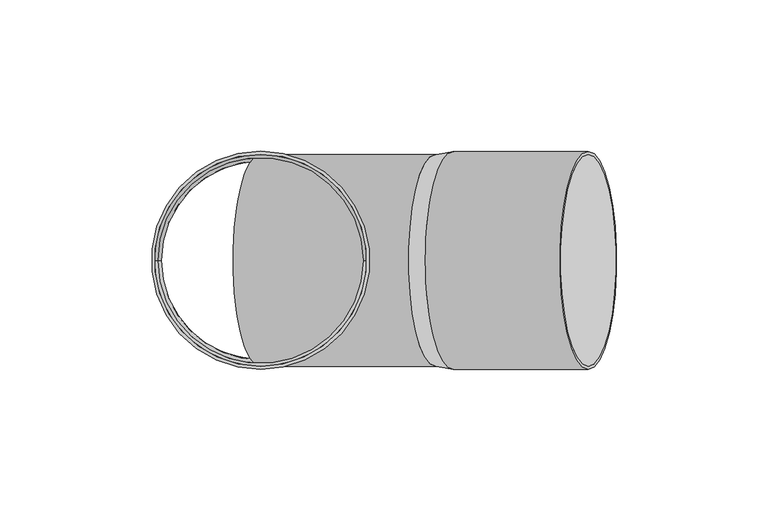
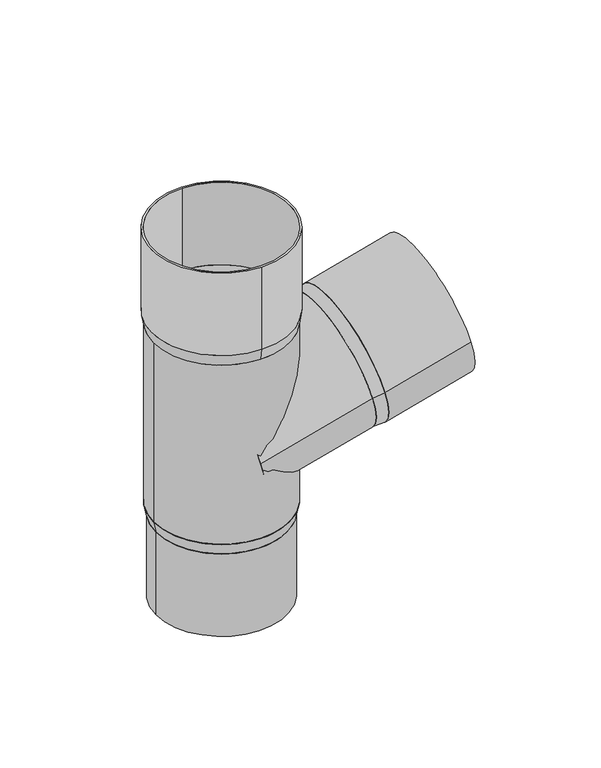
"""IFC4 building model written with IfcOpenShell, lengths in millimetres: proxy geometry, GROVIK_Downpipe_Branch : N70_75°."""

from ifc_helpers import new_model, si_unit, point, frame, origin, origin_2d, place, context, project, spatial, polyline, circle_curve, trimmed, segment, composite_curve, outline, extrude, source, transform, mapped, element, save
from ifc_brep_helpers import plane_surface, revolved_surface, advanced_brep


def generic_models_75526958(model_context):
    return source(origin(), model_context, "Body", "SolidModel", [
        extrude(outline(composite_curve([segment(trimmed(circle_curve(origin_2d(), 36.0), [point((0.0, 36.0))], [point((0.0, -36.0))], False, "CARTESIAN"), True, "CONTINUOUS"), segment(trimmed(circle_curve(origin_2d(), 36.0), [point((0.0, -36.0))], [point((0.0, 36.0))], False, "CARTESIAN"), True, "CONTINUOUS")], self_intersect=False), holes=[composite_curve([segment(trimmed(circle_curve(origin_2d(), 35.0), [point((0.0, 35.0))], [point((0.0, -35.0))], True, "CARTESIAN"), True, "CONTINUOUS"), segment(trimmed(circle_curve(origin_2d(), 35.0), [point((0.0, -35.0))], [point((0.0, 35.0))], True, "CARTESIAN"), True, "CONTINUOUS")], self_intersect=False)]), frame((63.7511045, 0.0, 9.082057), z_axis=(0.965925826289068, 0.0, 0.25881904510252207), x_axis=(0.25881904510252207, 0.0, -0.965925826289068)), (0.0, 0.0, 1.0), 46.0),
        advanced_brep(
        [(57.9555496, -35.0, 7.5291427), (57.9555496, 35.0, 7.5291427), (57.9555496, 33.9, 7.5291427), (57.9555496, -33.9, 7.5291427), (63.7511045, -36.0, 9.082057), (63.7511045, 36.0, 9.082057), (63.7511045, -35.0, 9.082057), (63.7511045, 35.0, 9.082057)],
        [
            (0, 1, circle_curve(frame((57.9555496, 0.0, 7.5291427), z_axis=(-0.965925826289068, 0.0, -0.25881904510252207), x_axis=(0.0, -1.0, 0.0)), 35.0)),
            (1, 0, circle_curve(frame((57.9555496, 0.0, 7.5291427), z_axis=(-0.965925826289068, 0.0, -0.25881904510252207), x_axis=(0.0, 1.0, 0.0)), 35.0)),
            (2, 3, circle_curve(frame((57.9555496, 0.0, 7.5291427), z_axis=(0.965925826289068, 0.0, 0.25881904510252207), x_axis=(0.0, -1.0, 0.0)), 33.9)),
            (3, 2, circle_curve(frame((57.9555496, 0.0, 7.5291427), z_axis=(0.965925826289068, 0.0, 0.25881904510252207), x_axis=(0.0, 1.0, 0.0)), 33.9)),
            (4, 5, circle_curve(frame((63.7511045, 0.0, 9.082057), z_axis=(0.965925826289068, 0.0, 0.25881904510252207), x_axis=(0.0, 1.0, 0.0)), 36.0)),
            (5, 4, circle_curve(frame((63.7511045, 0.0, 9.082057), z_axis=(0.965925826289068, 0.0, 0.25881904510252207), x_axis=(0.0, -1.0, 0.0)), 36.0)),
            (6, 7, circle_curve(frame((63.7511045, 0.0, 9.082057), z_axis=(-0.965925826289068, 0.0, -0.25881904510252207), x_axis=(0.0, -1.0, 0.0)), 35.0)),
            (7, 6, circle_curve(frame((63.7511045, 0.0, 9.082057), z_axis=(-0.965925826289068, 0.0, -0.25881904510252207), x_axis=(0.0, 1.0, 0.0)), 35.0)),
            (0, 4),
            (5, 1),
            (6, 3),
            (2, 7),
        ],
        [
            plane_surface(frame((57.9555496, 0.0, 7.5291427), z_axis=(-0.965925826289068, 0.0, -0.25881904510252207), x_axis=(-0.25881904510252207, 0.0, 0.965925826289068))),
            plane_surface(frame((63.7511045, 0.0, 9.082057), z_axis=(0.965925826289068, 0.0, 0.25881904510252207), x_axis=(-0.25881904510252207, 0.0, 0.965925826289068))),
            revolved_surface(polyline([(57.955549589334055, -35.00000000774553, 7.529142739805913), (63.7511045, -36.0, 9.082056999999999)]), (-144.8888739, 0.0, -46.8228568), (0.965925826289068, 0.0, 0.25881904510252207)),
            revolved_surface(polyline([(57.955549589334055, 35.00000000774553, 7.529142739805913), (63.7511045, 36.0, 9.082056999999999)]), (-144.8888739, 0.0, -46.8228568), (0.965925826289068, 0.0, 0.25881904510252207)),
            revolved_surface(polyline([(63.75110450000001, -35.0, 9.082056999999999), (57.95554958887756, -33.9000000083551, 7.529142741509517)]), (-120.6529168, 0.0, -40.3288516), (0.965925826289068, 0.0, 0.25881904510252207)),
        ],
        [
            (0, [[1, 2], [3, 4]]),
            (1, [[5, 6], [7, 8]]),
            (2, [[-1, 9, -6, 10]]),
            (3, [[-2, -10, -5, -9]]),
            (4, [[11, -3, 12, -7]]),
            (4, [[-11, -8, -12, -4]]),
        ],
    ),
        extrude(outline(composite_curve([segment(trimmed(circle_curve(origin_2d(), 35.0), [point((0.0, 35.0))], [point((0.0, -35.0))], False, "CARTESIAN"), True, "CONTINUOUS"), segment(trimmed(circle_curve(origin_2d(), 35.0), [point((0.0, -35.0))], [point((0.0, 35.0))], False, "CARTESIAN"), True, "CONTINUOUS")], self_intersect=False), holes=[composite_curve([segment(trimmed(circle_curve(origin_2d(), 33.9), [point((0.0, 33.9))], [point((0.0, -33.9))], True, "CARTESIAN"), True, "CONTINUOUS"), segment(trimmed(circle_curve(origin_2d(), 33.9), [point((0.0, -33.9))], [point((0.0, 33.9))], True, "CARTESIAN"), True, "CONTINUOUS")], self_intersect=False)]), frame((0.0, 0.0, -8.0), z_axis=(0.965925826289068, 0.0, 0.25881904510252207), x_axis=(0.25881904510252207, 0.0, -0.965925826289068)), (0.0, 0.0, 1.0), 60.0),
        extrude(outline(composite_curve([segment(trimmed(circle_curve(origin_2d(), 36.0), [point((0.0, 36.0))], [point((0.0, -36.0))], False, "CARTESIAN"), True, "CONTINUOUS"), segment(trimmed(circle_curve(origin_2d(), 36.0), [point((0.0, -36.0))], [point((0.0, 36.0))], False, "CARTESIAN"), True, "CONTINUOUS")], self_intersect=False), holes=[composite_curve([segment(trimmed(circle_curve(origin_2d(), 35.0), [point((0.0, 35.0))], [point((0.0, -35.0))], True, "CARTESIAN"), True, "CONTINUOUS"), segment(trimmed(circle_curve(origin_2d(), 35.0), [point((0.0, -35.0))], [point((0.0, 35.0))], True, "CARTESIAN"), True, "CONTINUOUS")], self_intersect=False)]), frame((0.0, 0.0, 55.0), z_axis=(0.0, 0.0, 1.0), x_axis=(1.0, 0.0, 0.0)), (0.0, 0.0, 1.0), 45.0),
        extrude(outline(composite_curve([segment(trimmed(circle_curve(origin_2d(), 33.75), [point((33.75, 0.0))], [point((-33.75, 0.0))], False, "CARTESIAN"), True, "CONTINUOUS"), segment(trimmed(circle_curve(origin_2d(), 33.75), [point((-33.75, 0.0))], [point((33.75, 0.0))], False, "CARTESIAN"), True, "CONTINUOUS")], self_intersect=False), holes=[composite_curve([segment(trimmed(circle_curve(origin_2d(), 32.75), [point((32.75, 0.0))], [point((-32.75, 0.0))], True, "CARTESIAN"), True, "CONTINUOUS"), segment(trimmed(circle_curve(origin_2d(), 32.75), [point((-32.75, 0.0))], [point((32.75, 0.0))], True, "CARTESIAN"), True, "CONTINUOUS")], self_intersect=False)]), frame((0.0, 0.0, -100.0), z_axis=(0.0, 0.0, 1.0), x_axis=(1.0, 0.0, 0.0)), (0.0, 0.0, 1.0), 45.0),
        advanced_brep(
        [(35.0, 0.0, -49.0), (-35.0, 0.0, -49.0), (-34.0, 0.0, -49.0), (34.0, 0.0, -49.0), (33.75, 0.0, -55.0), (-33.75, 0.0, -55.0), (32.75, 0.0, -55.0), (-32.75, 0.0, -55.0)],
        [
            (0, 1, circle_curve(frame((0.0, 0.0, -49.0), z_axis=(0.0, 0.0, 1.0), x_axis=(1.0, 0.0, 0.0)), 35.0)),
            (1, 0, circle_curve(frame((0.0, 0.0, -49.0), z_axis=(0.0, 0.0, 1.0), x_axis=(-1.0, 0.0, 0.0)), 35.0)),
            (2, 3, circle_curve(frame((0.0, 0.0, -49.0), z_axis=(0.0, 0.0, -1.0), x_axis=(1.0, 0.0, 0.0)), 34.0)),
            (3, 2, circle_curve(frame((0.0, 0.0, -49.0), z_axis=(0.0, 0.0, -1.0), x_axis=(-1.0, 0.0, 0.0)), 34.0)),
            (4, 5, circle_curve(frame((0.0, 0.0, -55.0), z_axis=(0.0, 0.0, -1.0), x_axis=(-1.0, 0.0, 0.0)), 33.75)),
            (5, 4, circle_curve(frame((0.0, 0.0, -55.0), z_axis=(0.0, 0.0, -1.0), x_axis=(1.0, 0.0, 0.0)), 33.75)),
            (6, 7, circle_curve(frame((0.0, 0.0, -55.0), z_axis=(0.0, 0.0, 1.0), x_axis=(1.0, 0.0, 0.0)), 32.75)),
            (7, 6, circle_curve(frame((0.0, 0.0, -55.0), z_axis=(0.0, 0.0, 1.0), x_axis=(-1.0, 0.0, 0.0)), 32.75)),
            (0, 4),
            (5, 1),
            (6, 3),
            (2, 7),
        ],
        [
            plane_surface(frame((0.0, 0.0, -49.0), z_axis=(0.0, 0.0, 1.0), x_axis=(0.0, 1.0, 0.0))),
            plane_surface(frame((0.0, 0.0, -55.0), z_axis=(0.0, 0.0, -1.0), x_axis=(0.0, 1.0, 0.0))),
            revolved_surface(polyline([(-33.75, 0.0, -55.0), (-35.0, 0.0, -49.0)]), (0.0, 0.0, -217.0), (0.0, 0.0, 1.0)),
            revolved_surface(polyline([(33.75, 0.0, -55.0), (35.0, 0.0, -49.0)]), (0.0, 0.0, -217.0), (0.0, 0.0, 1.0)),
            revolved_surface(polyline([(34.0, 0.0, -49.0), (32.75, 0.0, -55.0)]), (0.0, 0.0, -212.2), (0.0, 0.0, 1.0)),
        ],
        [
            (0, [[1, 2], [3, 4]]),
            (1, [[5, 6], [7, 8]]),
            (2, [[-1, 9, -6, 10]]),
            (3, [[-2, -10, -5, -9]]),
            (4, [[11, -3, 12, -7]]),
            (4, [[-11, -8, -12, -4]]),
        ],
    ),
        advanced_brep(
        [(0.0, 36.0, 55.0), (0.0, -36.0, 55.0), (-35.0, 0.0, 55.0), (35.0, 0.0, 55.0), (0.0, 35.0, 49.0), (0.0, -35.0, 49.0), (34.0, 0.0, 49.0), (-34.0, 0.0, 49.0)],
        [
            (0, 1, circle_curve(frame((0.0, 0.0, 55.0), z_axis=(0.0, 0.0, 1.0), x_axis=(0.0, 1.0, 0.0)), 36.0)),
            (1, 0, circle_curve(frame((0.0, 0.0, 55.0), z_axis=(0.0, 0.0, 1.0), x_axis=(0.0, -1.0, 0.0)), 36.0)),
            (2, 3, circle_curve(frame((0.0, 0.0, 55.0), z_axis=(0.0, 0.0, -1.0), x_axis=(-1.0, 0.0, 0.0)), 35.0)),
            (3, 2, circle_curve(frame((0.0, 0.0, 55.0), z_axis=(0.0, 0.0, -1.0), x_axis=(1.0, 0.0, 0.0)), 35.0)),
            (4, 5, circle_curve(frame((0.0, 0.0, 49.0), z_axis=(0.0, 0.0, -1.0), x_axis=(0.0, -1.0, 0.0)), 35.0)),
            (5, 4, circle_curve(frame((0.0, 0.0, 49.0), z_axis=(0.0, 0.0, -1.0), x_axis=(0.0, 1.0, 0.0)), 35.0)),
            (6, 7, circle_curve(frame((0.0, 0.0, 49.0), z_axis=(0.0, 0.0, 1.0), x_axis=(-1.0, 0.0, 0.0)), 34.0)),
            (7, 6, circle_curve(frame((0.0, 0.0, 49.0), z_axis=(0.0, 0.0, 1.0), x_axis=(1.0, 0.0, 0.0)), 34.0)),
            (0, 4),
            (5, 1),
            (2, 7),
            (6, 3),
        ],
        [
            plane_surface(frame((0.0, 0.0, 55.0), z_axis=(0.0, 0.0, 1.0), x_axis=(-1.0, 0.0, 0.0))),
            plane_surface(frame((0.0, 0.0, 49.0), z_axis=(0.0, 0.0, -1.0), x_axis=(-1.0, 0.0, 0.0))),
            revolved_surface(polyline([(0.0, -35.0, 49.0), (0.0, -36.0, 55.0)]), (0.0, 0.0, -161.0), (0.0, 0.0, 1.0)),
            revolved_surface(polyline([(0.0, 35.0, 49.0), (0.0, 36.0, 55.0)]), (0.0, 0.0, -161.0), (0.0, 0.0, 1.0)),
            revolved_surface(polyline([(-35.0, 0.0, 55.0), (-34.0, 0.0, 49.0)]), (0.0, 0.0, -155.0), (0.0, 0.0, 1.0)),
        ],
        [
            (0, [[1, 2], [3, 4]]),
            (1, [[5, 6], [7, 8]]),
            (2, [[-1, 9, -6, 10]]),
            (3, [[-2, -10, -5, -9]]),
            (4, [[11, -7, 12, -3]]),
            (4, [[-11, -4, -12, -8]]),
        ],
    ),
        extrude(outline(composite_curve([segment(trimmed(circle_curve(origin_2d(), 35.0), [point((-35.0, 0.0))], [point((35.0, 0.0))], False, "CARTESIAN"), True, "CONTINUOUS"), segment(trimmed(circle_curve(origin_2d(), 35.0), [point((35.0, 0.0))], [point((-35.0, 0.0))], False, "CARTESIAN"), True, "CONTINUOUS")], self_intersect=False), holes=[composite_curve([segment(trimmed(circle_curve(origin_2d(), 34.0), [point((-34.0, 0.0))], [point((34.0, 0.0))], True, "CARTESIAN"), True, "CONTINUOUS"), segment(trimmed(circle_curve(origin_2d(), 34.0), [point((34.0, 0.0))], [point((-34.0, 0.0))], True, "CARTESIAN"), True, "CONTINUOUS")], self_intersect=False)]), frame((0.0, 0.0, -49.0), z_axis=(0.0, 0.0, 1.0), x_axis=(1.0, 0.0, 0.0)), (0.0, 0.0, 1.0), 98.0),
    ])


if __name__ == "__main__":
    model = new_model("IFC4")
    model_context = context("Model", 3, world=origin())
    ifc_project = project(units=[si_unit("LENGTHUNIT", "METRE", prefix="MILLI")], contexts=[model_context])
    site = spatial("IfcSite", under=ifc_project)
    building = spatial("IfcBuilding", under=site)
    placement = place(None, origin())
    generic_models_shape = generic_models_75526958(model_context)
    element("IfcBuildingElementProxy", 1, Name="GROVIK_Downpipe_Branch : N70_75°", ObjectType="GROVIK_Downpipe_Branch : N70_75°", at=placement, inside=building, context=model_context, shape_type="MappedRepresentation", body=[
        mapped(generic_models_shape, transform((0.0, 0.0, 0.0), x_axis=(1.0, 0.0, 0.0), y_axis=(0.0, 1.0, 0.0), z_axis=(0.0, 0.0, 1.0))),
    ])
    save(model, "model.ifc")
